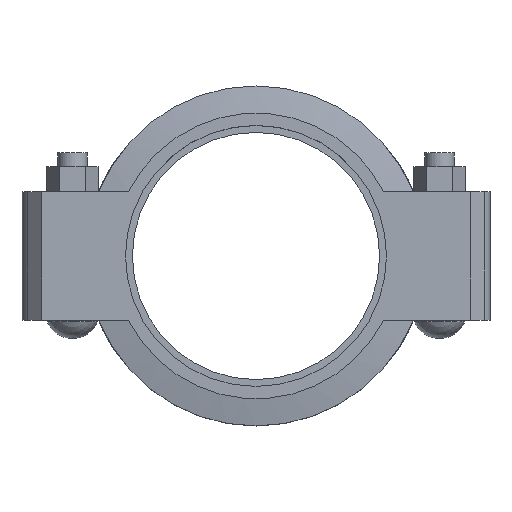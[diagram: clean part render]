
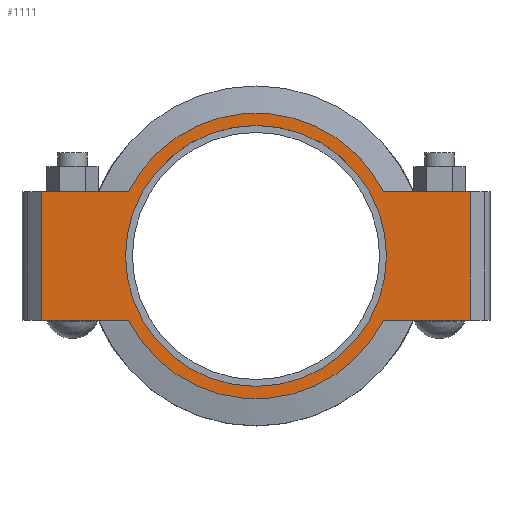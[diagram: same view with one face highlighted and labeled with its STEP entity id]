
A CAD part, top view. The second image highlights one B-rep face of the part: STEP entity #1111.
In plain terms, the highlighted planar face has unit normal (0, 0, 1).
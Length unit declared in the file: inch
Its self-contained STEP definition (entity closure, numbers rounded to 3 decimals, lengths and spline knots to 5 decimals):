
#75=FACE_BOUND('',#226,.T.);
#105=PLANE('',#1226);
#153=FACE_OUTER_BOUND('',#225,.T.);
#225=EDGE_LOOP('',(#888,#889,#890,#891,#892,#893,#894,#895));
#226=EDGE_LOOP('',(#896));
#298=LINE('',#1752,#385);
#313=LINE('',#1811,#400);
#321=LINE('',#1841,#408);
#323=LINE('',#1844,#410);
#324=LINE('',#1849,#411);
#325=LINE('',#1850,#412);
#385=VECTOR('',#1433,0.3937);
#400=VECTOR('',#1468,0.3937);
#408=VECTOR('',#1488,0.3937);
#410=VECTOR('',#1492,0.3937);
#411=VECTOR('',#1497,0.3937);
#412=VECTOR('',#1498,0.3937);
#437=CIRCLE('',#1183,3.3125);
#453=CIRCLE('',#1227,3.625);
#454=CIRCLE('',#1228,3.625);
#480=VERTEX_POINT('',#1644);
#515=VERTEX_POINT('',#1749);
#516=VERTEX_POINT('',#1751);
#537=VERTEX_POINT('',#1806);
#538=VERTEX_POINT('',#1810);
#547=VERTEX_POINT('',#1836);
#548=VERTEX_POINT('',#1840);
#549=VERTEX_POINT('',#1846);
#550=VERTEX_POINT('',#1848);
#581=EDGE_CURVE('',#480,#480,#437,.T.);
#632=EDGE_CURVE('',#516,#515,#298,.T.);
#657=EDGE_CURVE('',#538,#537,#313,.T.);
#670=EDGE_CURVE('',#548,#547,#321,.T.);
#672=EDGE_CURVE('',#548,#515,#323,.T.);
#673=EDGE_CURVE('',#547,#549,#453,.T.);
#674=EDGE_CURVE('',#549,#550,#324,.T.);
#675=EDGE_CURVE('',#538,#550,#325,.T.);
#676=EDGE_CURVE('',#537,#516,#454,.T.);
#888=ORIENTED_EDGE('',*,*,#672,.F.);
#889=ORIENTED_EDGE('',*,*,#670,.T.);
#890=ORIENTED_EDGE('',*,*,#673,.T.);
#891=ORIENTED_EDGE('',*,*,#674,.T.);
#892=ORIENTED_EDGE('',*,*,#675,.F.);
#893=ORIENTED_EDGE('',*,*,#657,.T.);
#894=ORIENTED_EDGE('',*,*,#676,.T.);
#895=ORIENTED_EDGE('',*,*,#632,.T.);
#896=ORIENTED_EDGE('',*,*,#581,.T.);
#1111=ADVANCED_FACE('',(#153,#75),#105,.T.);
#1183=AXIS2_PLACEMENT_3D('',#1646,#1337,#1338);
#1226=AXIS2_PLACEMENT_3D('',#1845,#1493,#1494);
#1227=AXIS2_PLACEMENT_3D('',#1847,#1495,#1496);
#1228=AXIS2_PLACEMENT_3D('',#1851,#1499,#1500);
#1337=DIRECTION('center_axis',(0.,0.,-1.));
#1338=DIRECTION('ref_axis',(1.,0.,0.));
#1433=DIRECTION('',(1.,0.,0.));
#1468=DIRECTION('',(1.,0.,0.));
#1488=DIRECTION('',(-1.,0.,0.));
#1492=DIRECTION('',(0.,-1.,0.));
#1493=DIRECTION('center_axis',(0.,0.,1.));
#1494=DIRECTION('ref_axis',(-1.,0.,0.));
#1495=DIRECTION('center_axis',(0.,0.,1.));
#1496=DIRECTION('ref_axis',(1.,0.,0.));
#1497=DIRECTION('',(-1.,0.,0.));
#1498=DIRECTION('',(0.,1.,0.));
#1499=DIRECTION('center_axis',(0.,0.,1.));
#1500=DIRECTION('ref_axis',(1.,0.,0.));
#1644=CARTESIAN_POINT('',(-3.3125,0.,1.065));
#1646=CARTESIAN_POINT('Origin',(0.,0.,1.065));
#1749=CARTESIAN_POINT('',(5.44,-1.63,1.065));
#1751=CARTESIAN_POINT('',(3.23786,-1.63,1.065));
#1752=CARTESIAN_POINT('',(-5.94,-1.63,1.065));
#1806=CARTESIAN_POINT('',(-3.23786,-1.63,1.065));
#1810=CARTESIAN_POINT('',(-5.44,-1.63,1.065));
#1811=CARTESIAN_POINT('',(-5.94,-1.63,1.065));
#1836=CARTESIAN_POINT('',(3.23786,1.63,1.065));
#1840=CARTESIAN_POINT('',(5.44,1.63,1.065));
#1841=CARTESIAN_POINT('',(5.94,1.63,1.065));
#1844=CARTESIAN_POINT('',(5.44,-0.815,1.065));
#1845=CARTESIAN_POINT('Origin',(0.,0.,
1.065));
#1846=CARTESIAN_POINT('',(-3.23786,1.63,1.065));
#1847=CARTESIAN_POINT('Origin',(0.,0.,1.065));
#1848=CARTESIAN_POINT('',(-5.44,1.63,1.065));
#1849=CARTESIAN_POINT('',(5.94,1.63,1.065));
#1850=CARTESIAN_POINT('',(-5.44,0.815,1.065));
#1851=CARTESIAN_POINT('Origin',(0.,0.,1.065));
